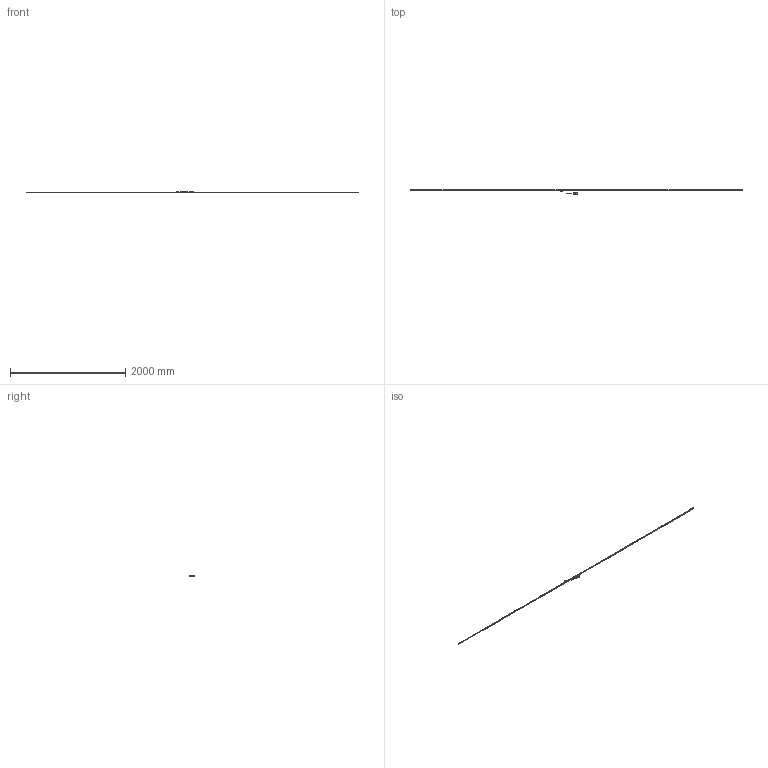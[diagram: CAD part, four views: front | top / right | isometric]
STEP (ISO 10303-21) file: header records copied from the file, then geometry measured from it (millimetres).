
FILE_DESCRIPTION(('Creo Elements/Direct Modeling STEP Export'),'2;1');
FILE_NAME('ST1300-5600D.stp','2018-03-01T15:07:28',(''),(''),'Creo Elements/Direct Modeling STEP processor for AP214 (Solid Model)','Creo Elements/Direct Modeling 18.1B 29-Sep-2012 (C) Parametric Technology GmbH','');
FILE_SCHEMA(('AUTOMOTIVE_DESIGN { 1 0 10303 214 1 1 1 1 }'));
Products named in the file (4): Connector; Detector_Head; Scale_5600; ST1300-5600D
Assembly tree (3 placements, depth 2):
  ST1300-5600D
    Scale_5600
    Detector_Head
    Connector
Bounding box: 5773 x 88.3 x 30.1 mm (x, y, z)
Volume: 497896.6 mm3; surface area: 320646.2 mm2
Topology: 2 solids, 10 shells, 5068 faces, 13662 edges, 8825 vertices
Faces by surface type: plane 2302, cylinder 1950, extrusion 624, cone 119, torus 46, bspline 23, revolution 4
Entity records: 165448 total; most frequent: CARTESIAN_POINT 40612, ORIENTED_EDGE 27300, DIRECTION 23354, EDGE_CURVE 13646, VERTEX_POINT 8825, VECTOR 8254, LINE 7660, AXIS2_PLACEMENT_3D 7547
